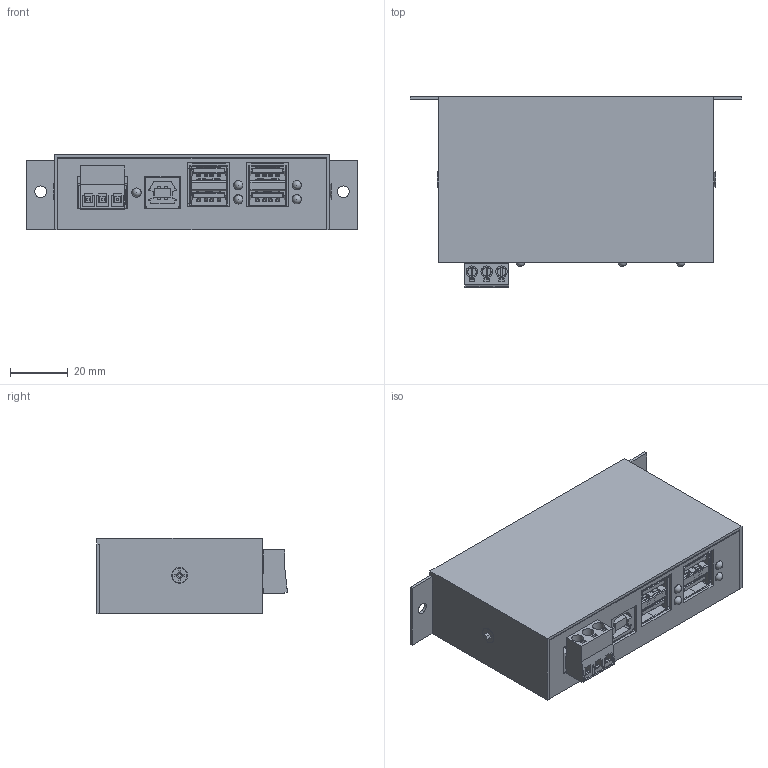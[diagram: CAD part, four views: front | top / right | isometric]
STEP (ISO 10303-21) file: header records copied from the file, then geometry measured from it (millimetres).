
FILE_DESCRIPTION(('FreeCAD Model'),'2;1');
FILE_NAME('Open CASCADE Shape Model','2024-07-04T10:10:54',(''),(''), 'Open CASCADE STEP processor 7.6','FreeCAD','Unknown');
FILE_SCHEMA(('AUTOMOTIVE_DESIGN { 1 0 10303 214 1 1 1 1 }'));
Products named in the file (1): EX-1163HM_3D
Bounding box: 114.5 x 65.85 x 26 mm (x, y, z)
Volume: 35754.5 mm3; surface area: 65390.2 mm2
Topology: 1 solids, 7 shells, 3808 faces, 11325 edges, 7420 vertices
Faces by surface type: plane 2640, cylinder 969, cone 91, torus 82, sphere 22, bspline 4
Full cylindrical faces by diameter (mm): 1.567 x2, 2 x2, 2.4 x14, 3 x5, 3.2 x2, 3.5 x2, 4 x5, 5.3 x4
Entity records: 154286 total; most frequent: CARTESIAN_POINT 24851, ORIENTED_EDGE 22598, DIRECTION 21095, EDGE_CURVE 11303, LINE 8469, VECTOR 8469, VERTEX_POINT 7419, AXIS2_PLACEMENT_3D 6313
